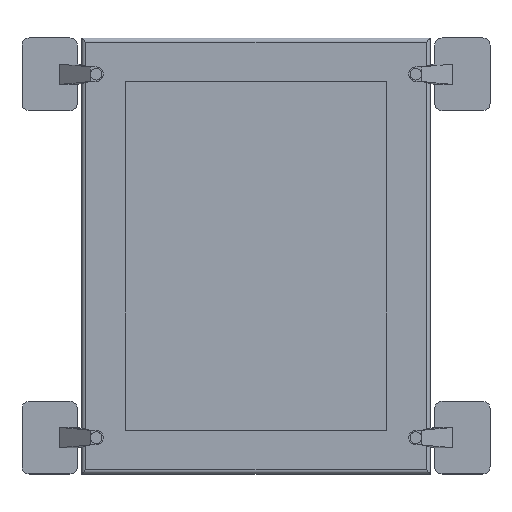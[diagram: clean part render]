
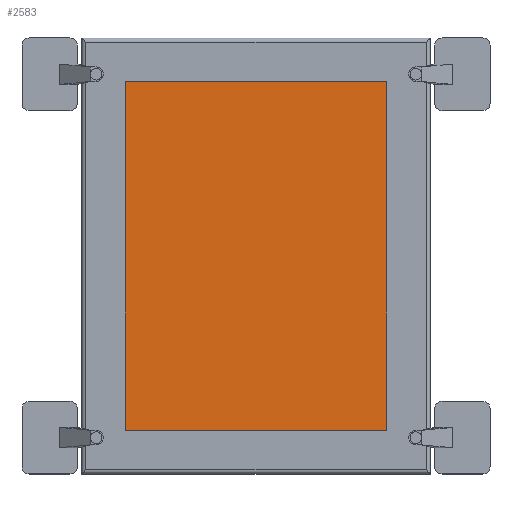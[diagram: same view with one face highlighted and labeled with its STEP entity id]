
A CAD part, top view. The second image highlights one B-rep face of the part: STEP entity #2583.
In plain terms, the highlighted planar face has unit normal (0, 0, 1).
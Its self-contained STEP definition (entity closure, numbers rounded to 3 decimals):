
#216=FACE_OUTER_BOUND('',#371,.T.);
#371=EDGE_LOOP('',(#1748,#1749,#1750,#1751));
#534=LINE('',#3734,#806);
#558=LINE('',#3803,#830);
#561=LINE('',#3809,#833);
#564=LINE('',#3813,#836);
#806=VECTOR('',#3019,10.);
#830=VECTOR('',#3091,10.);
#833=VECTOR('',#3096,10.);
#836=VECTOR('',#3101,10.);
#1062=VERTEX_POINT('',#3731);
#1063=VERTEX_POINT('',#3733);
#1084=VERTEX_POINT('',#3802);
#1086=VERTEX_POINT('',#3808);
#1290=EDGE_CURVE('',#1063,#1062,#534,.T.);
#1322=EDGE_CURVE('',#1084,#1063,#558,.T.);
#1325=EDGE_CURVE('',#1086,#1084,#561,.T.);
#1328=EDGE_CURVE('',#1062,#1086,#564,.T.);
#1748=ORIENTED_EDGE('',*,*,#1290,.T.);
#1749=ORIENTED_EDGE('',*,*,#1328,.T.);
#1750=ORIENTED_EDGE('',*,*,#1325,.T.);
#1751=ORIENTED_EDGE('',*,*,#1322,.T.);
#2307=PLANE('',#2761);
#2583=ADVANCED_FACE('',(#216),#2307,.T.);
#2761=AXIS2_PLACEMENT_3D('',#3815,#3104,#3105);
#3019=DIRECTION('',(1.,0.,0.));
#3091=DIRECTION('',(0.,-1.,0.));
#3096=DIRECTION('',(-1.,0.,0.));
#3101=DIRECTION('',(0.,1.,0.));
#3104=DIRECTION('center_axis',(0.,0.,1.));
#3105=DIRECTION('ref_axis',(1.,0.,0.));
#3731=CARTESIAN_POINT('',(90.,-120.,67.));
#3733=CARTESIAN_POINT('',(-90.,-120.,67.));
#3734=CARTESIAN_POINT('',(-90.,-120.,67.));
#3802=CARTESIAN_POINT('',(-90.,120.,67.));
#3803=CARTESIAN_POINT('',(-90.,120.,67.));
#3808=CARTESIAN_POINT('',(90.,120.,67.));
#3809=CARTESIAN_POINT('',(90.,120.,67.));
#3813=CARTESIAN_POINT('',(90.,-120.,67.));
#3815=CARTESIAN_POINT('Origin',(0.,0.,67.));
